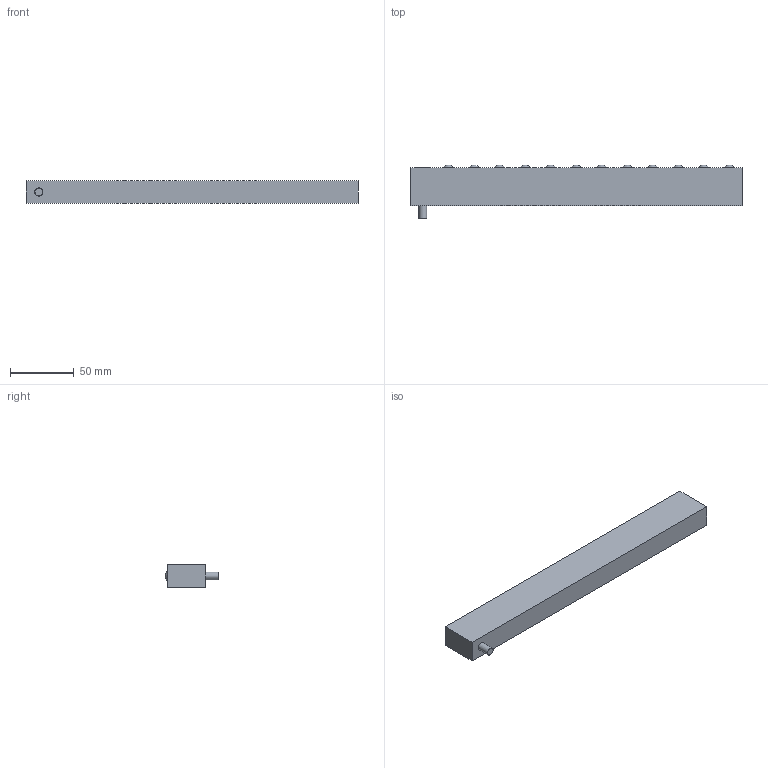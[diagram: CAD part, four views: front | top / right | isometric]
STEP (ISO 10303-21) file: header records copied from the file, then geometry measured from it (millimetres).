
FILE_DESCRIPTION(/* description */ (''),/* implementation_level */ '2;1');
FILE_NAME(/* name */ 'V:\Shrinkwrap\EMB\EMB - SHRINKWRAP\EMB18-12_Shrinkwrap_1.stp',/* time_stamp */ '2022-08-12T09:59:53+02:00',/* author */ ('cw'),/* organization */ (''),/* preprocessor_version */ 'ST-DEVELOPER v17',/* originating_system */ 'Autodesk Inventor 2019',/* authorisation */ '');
FILE_SCHEMA (('AUTOMOTIVE_DESIGN { 1 0 10303 214 3 1 1 }'));
Length unit declared in the file: millimetre
Products named in the file (1): EMB18-12_Shrinkwrap_1
Bounding box: 260 x 42.27 x 17.8 mm (x, y, z)
Volume: 137570 mm3; surface area: 27469.1 mm2
Topology: 1 solids, 1 shells, 26 faces, 40 edges, 34 vertices
Faces by surface type: sphere 12, plane 10, cylinder 4
Full cylindrical faces by diameter (mm): 6 x1, 6.5 x1, 10 x1, 11 x1
Entity records: 700 total; most frequent: DIRECTION 114, CARTESIAN_POINT 99, ORIENTED_EDGE 76, AXIS2_PLACEMENT_3D 49, EDGE_LOOP 42, EDGE_CURVE 38, VERTEX_POINT 30, STYLED_ITEM 29
